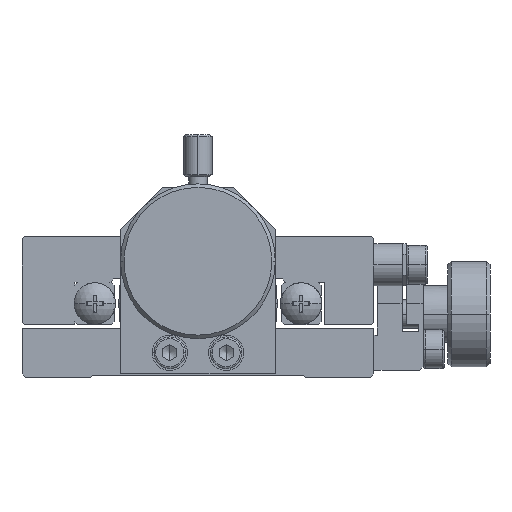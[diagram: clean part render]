
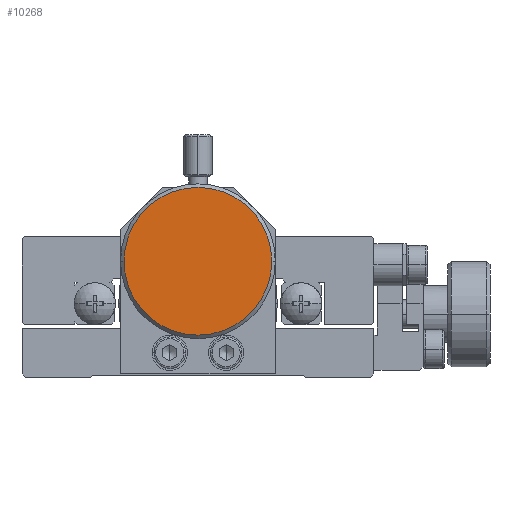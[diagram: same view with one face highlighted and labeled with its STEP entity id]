
A CAD part, front view. The second image highlights one B-rep face of the part: STEP entity #10268.
In plain terms, the highlighted planar face has unit normal (0, -1, 0).
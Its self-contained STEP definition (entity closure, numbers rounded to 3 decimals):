
#10243 = ORIENTED_EDGE ( 'NONE', *, *, #10272, .T. ) ;
#10268 = ADVANCED_FACE ( 'NONE', ( #32502 ), #32501, .T. ) ;
#10272 = EDGE_CURVE ( 'NONE', #10532, #10531, #32494, .T. ) ;
#10273 = EDGE_LOOP ( 'NONE', ( #10243, #10281 ) ) ;
#10281 = ORIENTED_EDGE ( 'NONE', *, *, #10530, .T. ) ;
#10530 = EDGE_CURVE ( 'NONE', #10531, #10532, #32944, .T. ) ;
#10531 = VERTEX_POINT ( 'NONE', #32939 ) ;
#10532 = VERTEX_POINT ( 'NONE', #32938 ) ;
#32486 = DIRECTION ( 'NONE',  ( -1., 0., 0. ) ) ;
#32487 = DIRECTION ( 'NONE',  ( 0., -1., 0. ) ) ;
#32488 = CARTESIAN_POINT ( 'NONE',  ( 0., -100.5, -3.5 ) ) ;
#32489 = AXIS2_PLACEMENT_3D ( 'NONE', #32488, #32487, #32486 ) ;
#32494 = CIRCLE ( 'NONE', #32489, 10.5 ) ;
#32497 = DIRECTION ( 'NONE',  ( -1., 0., 0. ) ) ;
#32498 = DIRECTION ( 'NONE',  ( 0., -1., 0. ) ) ;
#32499 = CARTESIAN_POINT ( 'NONE',  ( 0., -100.5, -3.5 ) ) ;
#32500 = AXIS2_PLACEMENT_3D ( 'NONE', #32499, #32498, #32497 ) ;
#32501 = PLANE ( 'NONE',  #32500 ) ;
#32502 = FACE_OUTER_BOUND ( 'NONE', #10273, .T. ) ;
#32938 = CARTESIAN_POINT ( 'NONE',  ( 10.5, -100.5, -3.5 ) ) ;
#32939 = CARTESIAN_POINT ( 'NONE',  ( -10.5, -100.5, -3.5 ) ) ;
#32940 = DIRECTION ( 'NONE',  ( -1., 0., 0. ) ) ;
#32941 = DIRECTION ( 'NONE',  ( 0., -1., 0. ) ) ;
#32942 = CARTESIAN_POINT ( 'NONE',  ( 0., -100.5, -3.5 ) ) ;
#32943 = AXIS2_PLACEMENT_3D ( 'NONE', #32942, #32941, #32940 ) ;
#32944 = CIRCLE ( 'NONE', #32943, 10.5 ) ;
